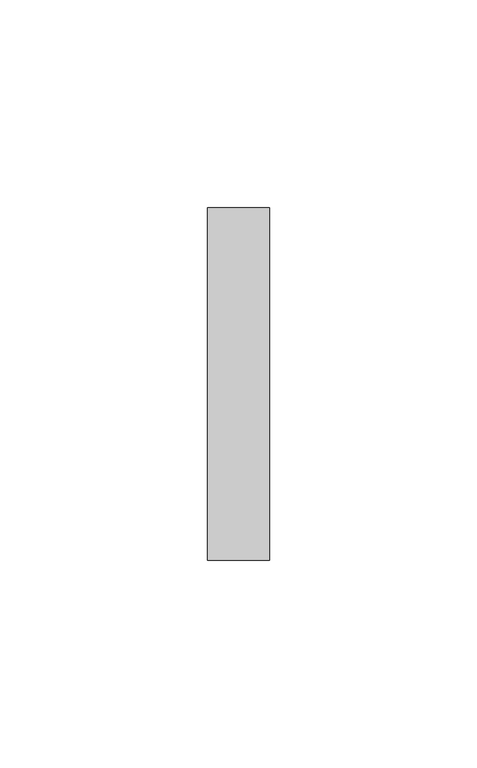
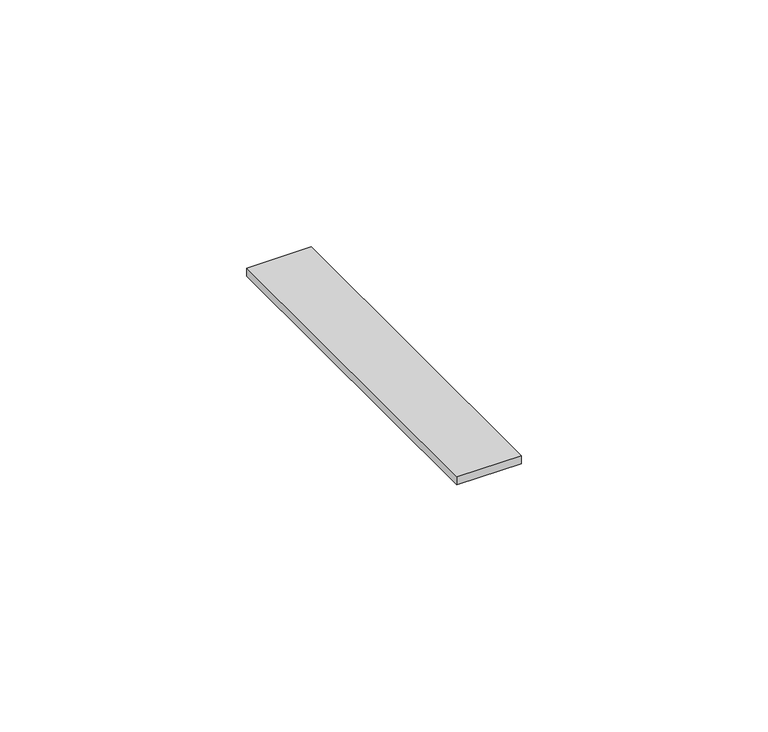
"""IFC4 building model written with IfcOpenShell, lengths in millimetres: duct fitting geometry, Накладка на стык - для крышек - для кабель-канала DLP - белый : 85мм."""

from ifc_helpers import new_model, si_unit, origin, origin_with_axes, place, context, project, spatial, polyline, outline, extrude, source, transform, mapped, element, save


def duct_fitting_cb53e87e(model_context):
    return source(origin(), model_context, "Body", "SweptSolid", [
        extrude(outline(polyline([(7.5, 42.5), (7.5, -42.5), (-7.5, -42.5), (-7.5, 42.5), (7.5, 42.5)])), origin_with_axes(), (0.0, 0.0, 1.0), 2.0),
    ])


if __name__ == "__main__":
    model = new_model("IFC4")
    model_context = context("Model", 3, world=origin())
    ifc_project = project(units=[si_unit("LENGTHUNIT", "METRE", prefix="MILLI")], contexts=[model_context])
    site = spatial("IfcSite", under=ifc_project)
    building = spatial("IfcBuilding", under=site)
    placement = place(None, origin())
    duct_fitting_shape = duct_fitting_cb53e87e(model_context)
    element("IfcDuctFitting", 1, ObjectType="Накладка на стык - для крышек - для кабель-канала DLP - белый : 85мм", at=placement, inside=building, context=model_context, shape_type="MappedRepresentation", body=[
        mapped(duct_fitting_shape, transform((0.0, 0.0, 0.0), x_axis=(1.0, 0.0, 0.0), y_axis=(0.0, 1.0, 0.0), z_axis=(0.0, 0.0, 1.0))),
    ])
    save(model, "model.ifc")
